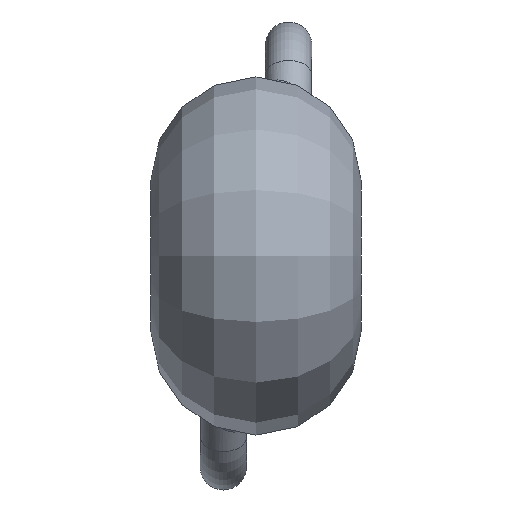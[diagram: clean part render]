
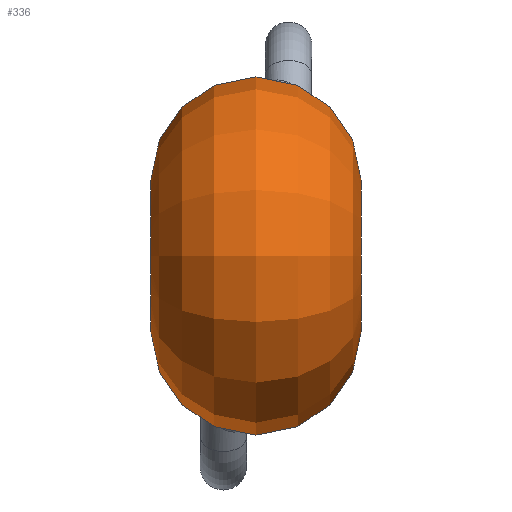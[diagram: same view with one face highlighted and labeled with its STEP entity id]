
A CAD part, left-side view. The second image highlights one B-rep face of the part: STEP entity #336.
In plain terms, the highlighted free-form (B-spline) face has degree [2, 2] with [7, 9] control points.
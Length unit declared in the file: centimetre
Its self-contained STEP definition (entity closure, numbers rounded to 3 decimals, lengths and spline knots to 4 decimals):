
#159=CARTESIAN_POINT('',(0.2724,-0.0079,-0.3181));
#160=VERTEX_POINT('',#159);
#192=CARTESIAN_POINT('',(0.2724,-0.0079,-0.3181));
#193=CARTESIAN_POINT('',(0.2578,-0.008,-0.3306));
#194=CARTESIAN_POINT('',(0.2281,-0.0003,-0.3548));
#195=CARTESIAN_POINT('',(0.1906,0.0323,-0.3812));
#196=CARTESIAN_POINT('',(0.1666,0.0789,-0.3907));
#197=CARTESIAN_POINT('',(0.1591,0.1294,-0.3812));
#198=CARTESIAN_POINT('',(0.1681,0.1738,-0.3548));
#199=CARTESIAN_POINT('',(0.1928,0.2053,-0.3167));
#200=CARTESIAN_POINT('',(0.2332,0.2175,-0.2742));
#201=CARTESIAN_POINT('',(0.2735,0.2079,-0.2459));
#202=CARTESIAN_POINT('',(0.3025,0.1904,-0.231));
#203=CARTESIAN_POINT('',(0.328,0.1675,-0.2208));
#204=CARTESIAN_POINT('',(0.3512,0.1306,-0.2168));
#205=CARTESIAN_POINT('',(0.3597,0.0802,-0.2256));
#206=CARTESIAN_POINT('',(0.347,0.0333,-0.2476));
#207=CARTESIAN_POINT('',(0.3155,0.0003,-0.2802));
#208=CARTESIAN_POINT('',(0.2869,-0.0078,-0.3057));
#209=CARTESIAN_POINT('',(0.2724,-0.0079,-0.3181));
#210=B_SPLINE_CURVE_WITH_KNOTS('',3,(#192,#193,#194,#195,#196,#197,#198,#199,#200,#201,#202,#203,#204,#205,#206,#207,#208,#209),.UNSPECIFIED.,.T.,.U.,(4,1,1,1,1,1,1,1,1,1,1,1,1,1,1,4),(0.0,0.0254,0.0508,0.0763,0.1017,0.1271,0.1525,0.1779,0.2034,0.2161,0.2288,0.2542,0.2796,0.305,0.3305,0.3559),.UNSPECIFIED.);
#211=EDGE_CURVE('',#160,#160,#210,.T.);
#216=CARTESIAN_POINT('',(0.0,-0.131,0.));
#217=CARTESIAN_POINT('',(-0.1773,-0.3049,0.));
#218=CARTESIAN_POINT('',(-0.3524,-0.1287,0.));
#219=CARTESIAN_POINT('',(-0.5274,0.0475,0.));
#220=CARTESIAN_POINT('',(-0.3524,0.2237,0.));
#221=CARTESIAN_POINT('',(-0.1773,0.3999,0.));
#222=CARTESIAN_POINT('',(0.0,0.226,0.));
#223=CARTESIAN_POINT('',(0.,-0.131,0.));
#224=CARTESIAN_POINT('',(-0.1773,-0.3049,-0.1773));
#225=CARTESIAN_POINT('',(-0.3524,-0.1287,-0.3524));
#226=CARTESIAN_POINT('',(-0.5274,0.0475,-0.5274));
#227=CARTESIAN_POINT('',(-0.3524,0.2237,-0.3524));
#228=CARTESIAN_POINT('',(-0.1773,0.3999,-0.1773));
#229=CARTESIAN_POINT('',(0.,0.226,0.));
#230=CARTESIAN_POINT('',(0.,-0.131,0.0));
#231=CARTESIAN_POINT('',(0.,-0.3049,-0.1773));
#232=CARTESIAN_POINT('',(0.,-0.1287,-0.3524));
#233=CARTESIAN_POINT('',(0.,0.0475,-0.5274));
#234=CARTESIAN_POINT('',(0.,0.2237,-0.3524));
#235=CARTESIAN_POINT('',(0.,0.3999,-0.1773));
#236=CARTESIAN_POINT('',(0.,0.226,0.0));
#237=CARTESIAN_POINT('',(0.,-0.131,0.));
#238=CARTESIAN_POINT('',(0.1773,-0.3049,-0.1773));
#239=CARTESIAN_POINT('',(0.3524,-0.1287,-0.3524));
#240=CARTESIAN_POINT('',(0.5274,0.0475,-0.5274));
#241=CARTESIAN_POINT('',(0.3524,0.2237,-0.3524));
#242=CARTESIAN_POINT('',(0.1773,0.3999,-0.1773));
#243=CARTESIAN_POINT('',(0.,0.226,0.));
#244=CARTESIAN_POINT('',(0.0,-0.131,0.));
#245=CARTESIAN_POINT('',(0.1773,-0.3049,0.));
#246=CARTESIAN_POINT('',(0.3524,-0.1287,0.));
#247=CARTESIAN_POINT('',(0.5274,0.0475,0.));
#248=CARTESIAN_POINT('',(0.3524,0.2237,0.));
#249=CARTESIAN_POINT('',(0.1773,0.3999,0.));
#250=CARTESIAN_POINT('',(0.0,0.226,0.));
#251=CARTESIAN_POINT('',(0.,-0.131,0.));
#252=CARTESIAN_POINT('',(0.1773,-0.3049,0.1773));
#253=CARTESIAN_POINT('',(0.3524,-0.1287,0.3524));
#254=CARTESIAN_POINT('',(0.5274,0.0475,0.5274));
#255=CARTESIAN_POINT('',(0.3524,0.2237,0.3524));
#256=CARTESIAN_POINT('',(0.1773,0.3999,0.1773));
#257=CARTESIAN_POINT('',(0.,0.226,0.));
#258=CARTESIAN_POINT('',(0.,-0.131,0.0));
#259=CARTESIAN_POINT('',(0.,-0.3049,0.1773));
#260=CARTESIAN_POINT('',(0.,-0.1287,0.3524));
#261=CARTESIAN_POINT('',(0.,0.0475,0.5274));
#262=CARTESIAN_POINT('',(0.,0.2237,0.3524));
#263=CARTESIAN_POINT('',(0.,0.3999,0.1773));
#264=CARTESIAN_POINT('',(0.,0.226,0.0));
#265=CARTESIAN_POINT('',(0.,-0.131,0.));
#266=CARTESIAN_POINT('',(-0.1773,-0.3049,0.1773));
#267=CARTESIAN_POINT('',(-0.3524,-0.1287,0.3524));
#268=CARTESIAN_POINT('',(-0.5274,0.0475,0.5274));
#269=CARTESIAN_POINT('',(-0.3524,0.2237,0.3524));
#270=CARTESIAN_POINT('',(-0.1773,0.3999,0.1773));
#271=CARTESIAN_POINT('',(0.,0.226,0.));
#272=CARTESIAN_POINT('',(0.0,-0.131,0.));
#273=CARTESIAN_POINT('',(-0.1773,-0.3049,0.));
#274=CARTESIAN_POINT('',(-0.3524,-0.1287,0.));
#275=CARTESIAN_POINT('',(-0.5274,0.0475,0.));
#276=CARTESIAN_POINT('',(-0.3524,0.2237,0.));
#277=CARTESIAN_POINT('',(-0.1773,0.3999,0.));
#278=CARTESIAN_POINT('',(0.0,0.226,0.));
#286=(BOUNDED_SURFACE()B_SPLINE_SURFACE(2,2,((#216,#223,#230,#237,#244,#251,#258,#265,#272),(#217,#224,#231,#238,#245,#252,#259,#266,#273),(#218,#225,#232,#239,#246,#253,#260,#267,#274),(#219,#226,#233,#240,#247,#254,#261,#268,#275),(#220,#227,#234,#241,#248,#255,#262,#269,#276),(#221,#228,#235,#242,#249,#256,#263,#270,#277),(#222,#229,#236,#243,#250,#257,#264,#271,#278)),.UNSPECIFIED.,.F.,.T.,.U.)B_SPLINE_SURFACE_WITH_KNOTS((3,2,2,3),(3,2,2,2,3),(-2.3462,-0.7821,0.7821,2.3462),(0.0,1.5708,3.1416,4.7124,6.2832),.UNSPECIFIED.)GEOMETRIC_REPRESENTATION_ITEM()RATIONAL_B_SPLINE_SURFACE(((1.0,0.707,1.0,0.707,1.0,0.707,1.0,0.707,1.0),(0.709,0.502,0.709,0.502,0.709,0.502,0.709,0.502,0.709),(1.0,0.707,1.0,0.707,1.0,0.707,1.0,0.707,1.0),(0.709,0.502,0.709,0.502,0.709,0.502,0.709,0.502,0.709),(1.0,0.707,1.0,0.707,1.0,0.707,1.0,0.707,1.0),(0.709,0.502,0.709,0.502,0.709,0.502,0.709,0.502,0.709),(1.0,0.707,1.0,0.707,1.0,0.707,1.0,0.707,1.0)))REPRESENTATION_ITEM('')SURFACE());
#287=CARTESIAN_POINT('',(0.2356,-0.1186,0.2747));
#288=VERTEX_POINT('',#287);
#289=CARTESIAN_POINT('',(0.2356,-0.1186,0.2746));
#290=CARTESIAN_POINT('',(0.2504,-0.1185,0.262));
#291=CARTESIAN_POINT('',(0.2826,-0.1104,0.2397));
#292=CARTESIAN_POINT('',(0.3172,-0.0841,0.2245));
#293=CARTESIAN_POINT('',(0.3482,-0.043,0.2164));
#294=CARTESIAN_POINT('',(0.362,0.0081,0.2222));
#295=CARTESIAN_POINT('',(0.3464,0.0626,0.2482));
#296=CARTESIAN_POINT('',(0.3146,0.0953,0.2811));
#297=CARTESIAN_POINT('',(0.2716,0.1068,0.3193));
#298=CARTESIAN_POINT('',(0.2234,0.0938,0.3587));
#299=CARTESIAN_POINT('',(0.1872,0.0581,0.3832));
#300=CARTESIAN_POINT('',(0.1621,0.0027,0.391));
#301=CARTESIAN_POINT('',(0.1594,-0.0441,0.3774));
#302=CARTESIAN_POINT('',(0.1728,-0.0849,0.3476));
#303=CARTESIAN_POINT('',(0.1936,-0.1108,0.3157));
#304=CARTESIAN_POINT('',(0.2207,-0.1187,0.2873));
#305=CARTESIAN_POINT('',(0.2356,-0.1186,0.2746));
#306=B_SPLINE_CURVE_WITH_KNOTS('',3,(#289,#290,#291,#292,#293,#294,#295,#296,#297,#298,#299,#300,#301,#302,#303,#304,#305),.UNSPECIFIED.,.T.,.U.,(4,1,1,1,1,1,1,1,1,1,1,1,1,1,4),(0.0,0.0254,0.0508,0.0635,0.1016,0.1271,0.1525,0.1779,0.2033,0.2351,0.2541,0.2922,0.3049,0.3304,0.3558),.UNSPECIFIED.);
#307=EDGE_CURVE('',#288,#288,#306,.T.);
#308=ORIENTED_EDGE('',*,*,#307,.F.);
#309=EDGE_LOOP('',(#308));
#310=FACE_OUTER_BOUND('',#309,.T.);
#311=CARTESIAN_POINT('',(0.175,-0.2025,0.));
#312=VERTEX_POINT('',#311);
#313=CARTESIAN_POINT('',(0.0,-0.2025,0.0));
#314=DIRECTION('',(0.0,1.0,0.0));
#315=DIRECTION('',(-1.0,0.0,0.0));
#316=AXIS2_PLACEMENT_3D('',#313,#314,#315);
#317=CIRCLE('',#316,0.175);
#318=EDGE_CURVE('',#312,#312,#317,.T.);
#319=ORIENTED_EDGE('',*,*,#318,.T.);
#320=EDGE_LOOP('',(#319));
#321=FACE_BOUND('',#320,.T.);
#322=CARTESIAN_POINT('',(0.175,0.2975,0.));
#323=VERTEX_POINT('',#322);
#324=CARTESIAN_POINT('',(0.0,0.2975,0.0));
#325=DIRECTION('',(0.0,-1.0,0.0));
#326=DIRECTION('',(-1.0,0.0,0.0));
#327=AXIS2_PLACEMENT_3D('',#324,#325,#326);
#328=CIRCLE('',#327,0.175);
#329=EDGE_CURVE('',#323,#323,#328,.T.);
#330=ORIENTED_EDGE('',*,*,#329,.T.);
#331=EDGE_LOOP('',(#330));
#332=FACE_BOUND('',#331,.T.);
#333=ORIENTED_EDGE('',*,*,#211,.F.);
#334=EDGE_LOOP('',(#333));
#335=FACE_BOUND('',#334,.T.);
#336=ADVANCED_FACE('',(#310,#321,#332,#335),#286,.T.);
